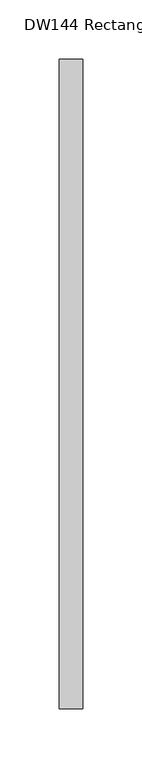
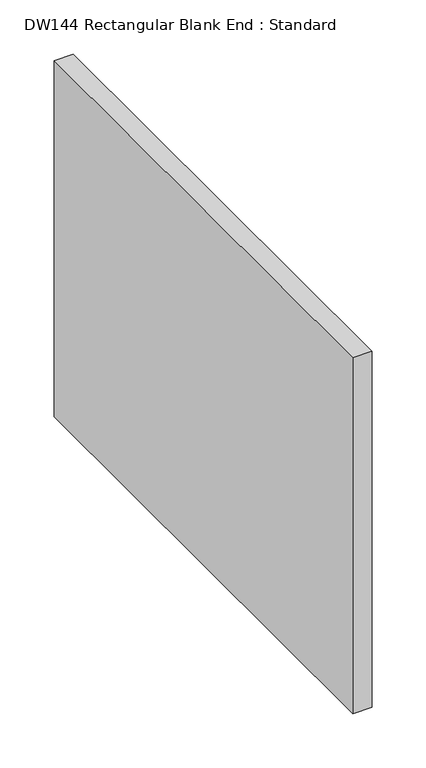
"""IFC4 building model written with IfcOpenShell, lengths in millimetres: duct fitting geometry, DW144 Rectangular Blank End : Standard."""

from ifc_helpers import new_model, si_unit, frame, origin, place, context, project, spatial, polyline, outline, extrude, source, transform, mapped, element, save


def dw144_rectangular_blank_end_standard_8fde7d16(model_context):
    return source(origin(), model_context, "Body", "SweptSolid", [
        extrude(outline(polyline([(20.0, -275.0), (0.0, -275.0), (0.0, 275.0), (20.0, 275.0), (20.0, -275.0)])), frame((0.0, 0.0, -200.0), z_axis=(0.0, 0.0, 1.0), x_axis=(1.0, 0.0, 0.0)), (0.0, 0.0, 1.0), 400.0),
    ])


if __name__ == "__main__":
    model = new_model("IFC4")
    model_context = context("Model", 3, world=origin())
    ifc_project = project(units=[si_unit("LENGTHUNIT", "METRE", prefix="MILLI")], contexts=[model_context])
    site = spatial("IfcSite", under=ifc_project)
    building = spatial("IfcBuilding", under=site)
    placement = place(None, origin())
    dw144_rectangular_blank_end_standard_shape = dw144_rectangular_blank_end_standard_8fde7d16(model_context)
    element("IfcDuctFitting", 1, ObjectType="DW144 Rectangular Blank End : Standard", at=placement, inside=building, context=model_context, shape_type="MappedRepresentation", body=[
        mapped(dw144_rectangular_blank_end_standard_shape, transform((0.0, 0.0, 0.0), x_axis=(1.0, 0.0, 0.0), y_axis=(0.0, 1.0, 0.0), z_axis=(0.0, 0.0, 1.0))),
    ])
    save(model, "model.ifc")
